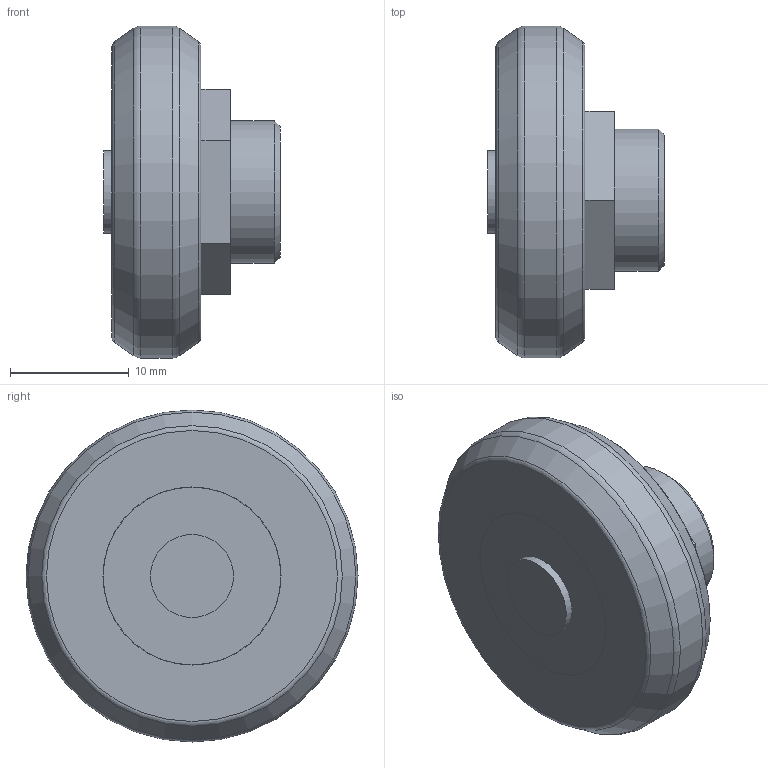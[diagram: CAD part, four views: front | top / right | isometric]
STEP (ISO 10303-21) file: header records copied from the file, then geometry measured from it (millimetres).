
FILE_DESCRIPTION( ( 'STEP AP203' ), '1' );
FILE_NAME( 'C:/Temp/Ganter_Step_05_03_2020/data/3_8/gn2426/Track GN 2426-35-E-2RS.stp', '2020-03-12T15:07:24', ( 'License CC BY-ND 4.0' ), ( 'CADENAS' ), ' ', 'PARTsolutions', ' ' );
FILE_SCHEMA( ( 'CONFIG_CONTROL_DESIGN' ) );
Length unit declared in the file: millimetre
Products named in the file (1): _Track GN 2426-35-E-2RS
Bounding box: 14.9 x 28 x 28 mm (x, y, z)
Volume: 5154.4 mm3; surface area: 2137.8 mm2
Topology: 1 solids, 1 shells, 28 faces, 54 edges, 33 vertices
Faces by surface type: plane 13, cylinder 6, cone 5, torus 4
Full cylindrical faces by diameter (mm): 4.134 x1, 7 x1, 12 x1, 14.98 x1, 15.02 x1, 28 x1
Entity records: 670 total; most frequent: DIRECTION 116, CARTESIAN_POINT 100, ORIENTED_EDGE 76, AXIS2_PLACEMENT_3D 49, EDGE_LOOP 48, FACE_OUTER_BOUND 38, EDGE_CURVE 38, VERTEX_POINT 33
